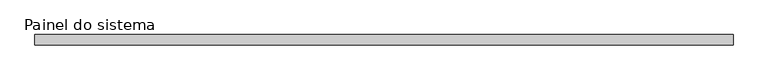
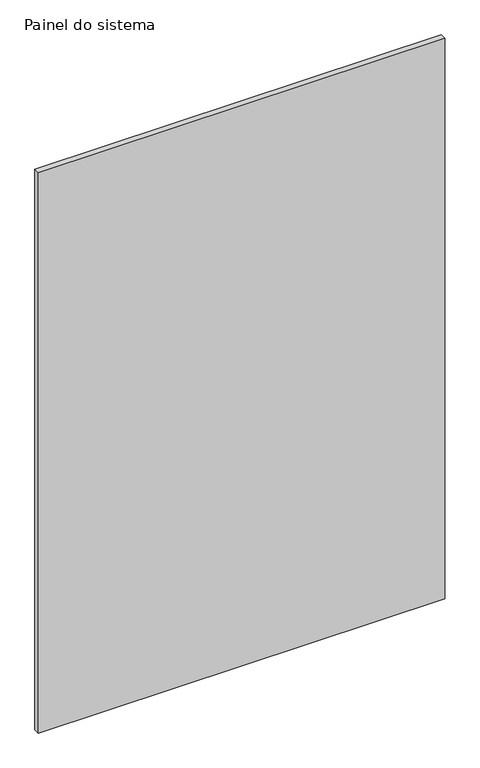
"""IFC4 building model written with IfcOpenShell, lengths in millimetres: plate geometry, Painel do sistema : Envidraçado."""

from ifc_helpers import new_model, si_unit, origin, origin_with_axes, place, context, project, spatial, polyline, outline, extrude, source, transform, mapped, element, save


def painel_do_sistema_021c2dfd(model_context):
    return source(origin(), model_context, "Body", "SweptSolid", [
        extrude(outline(polyline([(682.4999998, -10.0), (-682.4999998, -10.0), (-682.4999998, 10.0), (682.4999998, 10.0), (682.4999998, -10.0)])), origin_with_axes(), (0.0, 0.0, 1.0), 1990.0),
    ])


if __name__ == "__main__":
    model = new_model("IFC4")
    model_context = context("Model", 3, world=origin())
    ifc_project = project(units=[si_unit("LENGTHUNIT", "METRE", prefix="MILLI")], contexts=[model_context])
    site = spatial("IfcSite", under=ifc_project)
    building = spatial("IfcBuilding", under=site)
    placement = place(None, origin())
    painel_do_sistema_shape = painel_do_sistema_021c2dfd(model_context)
    element("IfcPlate", 1, ObjectType="Painel do sistema : Envidraçado", at=placement, inside=building, context=model_context, shape_type="MappedRepresentation", body=[
        mapped(painel_do_sistema_shape, transform((0.0, 0.0, 0.0), x_axis=(1.0, 0.0, 0.0), y_axis=(0.0, 1.0, 0.0), z_axis=(0.0, 0.0, 1.0))),
    ])
    save(model, "model.ifc")
